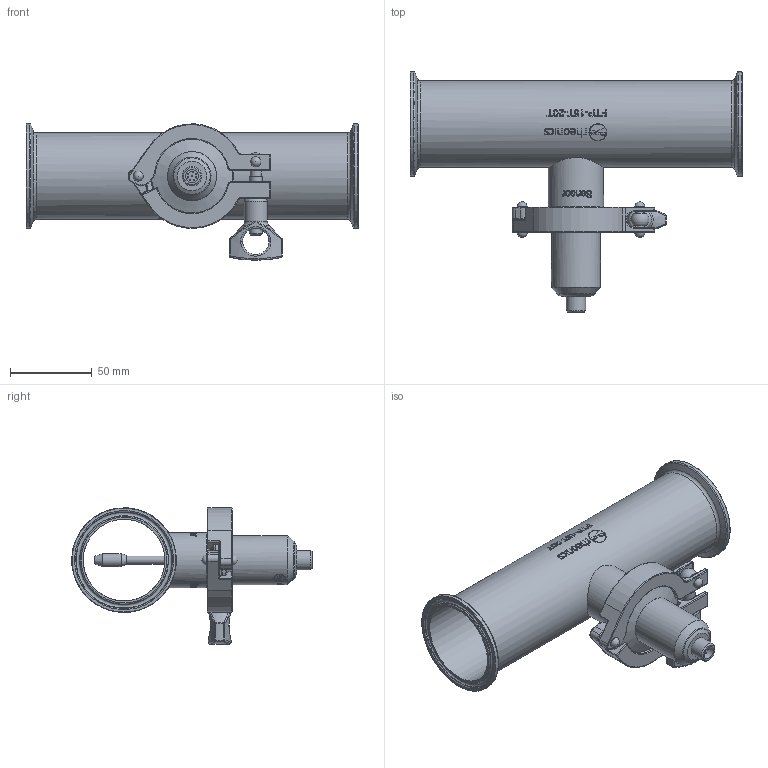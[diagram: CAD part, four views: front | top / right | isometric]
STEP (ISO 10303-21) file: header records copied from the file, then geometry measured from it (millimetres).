
FILE_DESCRIPTION(/* description */ ('Unknown'),/* implementation_level */ '2;1');
FILE_NAME(/* name */ 'Rheonics_SRV-HD-X3-15T_FTP-15T-20T',/* time_stamp */ '2025-02-06T15:46:31-05:00',/* author */ ('Unknown'),/* organization */ ('Unknown'),/* preprocessor_version */ 'ST-DEVELOPER v16.7',/* originating_system */ 'Solid Edge',/* authorisation */ 'Unknown');
FILE_SCHEMA (('AUTOMOTIVE_DESIGN {1 0 10303 214 3 1 1}'));
Length unit declared in the file: millimetre
Products named in the file (5): SRV-X3-15T_FTP-15T-20T; FTP-15T-20T; SRV-HD-X3-15T; TC-15T-Clamp; TC-15T-Seal
Assembly tree (4 placements, depth 2):
  SRV-X3-15T_FTP-15T-20T
    FTP-15T-20T
    SRV-HD-X3-15T
    TC-15T-Clamp
    TC-15T-Seal
Bounding box: 203 x 147.01 x 83.35 mm (x, y, z)
Volume: 139752 mm3; surface area: 107379.2 mm2
Topology: 4 solids, 4 shells, 1000 faces, 2466 edges, 1545 vertices
Faces by surface type: bspline 385, plane 268, cylinder 217, torus 73, cone 32, sphere 25
Full cylindrical faces by diameter (mm): 0.8 x8, 4 x3, 5.019 x1, 6.2 x4, 6.8 x1, 8 x4, 12 x1, 13.9 x1, 14 x1, 16 x1, 29.7 x1, 30 x1, 33.7 x1, 35 x1, 38.2 x1, 50 x1, 50.5 x3, 53 x1, 64 x2
Entity records: 74222 total; most frequent: CARTESIAN_POINT 48918, ORIENTED_EDGE 4558, DIRECTION 3295, EDGE_CURVE 2279, VERTEX_POINT 1507, AXIS2_PLACEMENT_3D 1241, EDGE_LOOP 1234, FACE_BOUND 1234
